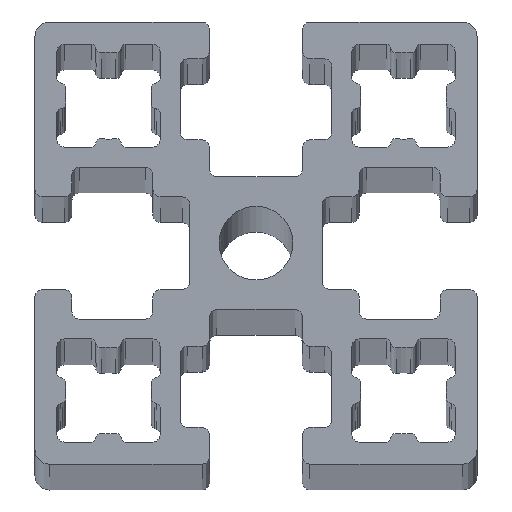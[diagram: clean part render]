
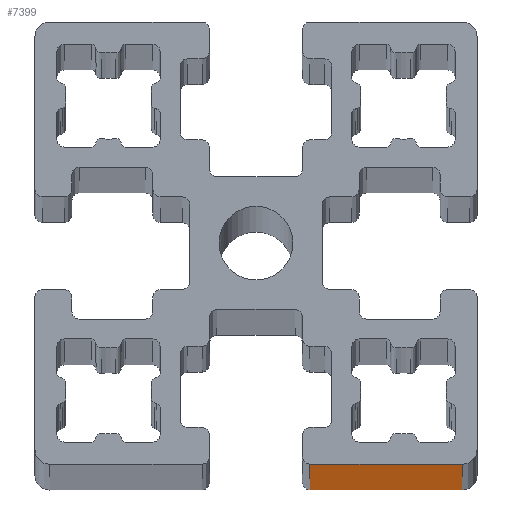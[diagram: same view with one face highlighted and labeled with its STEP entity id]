
A CAD part, top view. The second image highlights one B-rep face of the part: STEP entity #7399.
In plain terms, the highlighted planar face has unit normal (0, -1, 0).
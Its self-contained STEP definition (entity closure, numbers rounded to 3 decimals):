
#7341=CARTESIAN_POINT('',(284.,155.,1000.0));
#7342=VERTEX_POINT('',#7341);
#7350=CARTESIAN_POINT('',(284.,155.,0.0));
#7351=VERTEX_POINT('',#7350);
#7352=CARTESIAN_POINT('',(284.,155.,0.0));
#7353=DIRECTION('',(0.0,0.0,1.0));
#7354=VECTOR('',#7353,1000.0);
#7355=LINE('',#7352,#7354);
#7356=EDGE_CURVE('',#7351,#7342,#7355,.T.);
#7369=CARTESIAN_POINT('',(284.,155.,0.0));
#7370=DIRECTION('',(0.,-1.0,0.0));
#7371=DIRECTION('',(0.0,0.0,-1.0));
#7372=AXIS2_PLACEMENT_3D('',#7369,#7370,#7371);
#7373=PLANE('',#7372);
#7374=CARTESIAN_POINT('',(273.65,155.,1000.0));
#7375=VERTEX_POINT('',#7374);
#7376=CARTESIAN_POINT('',(284.,155.,1000.0));
#7377=DIRECTION('',(-1.0,0.,0.0));
#7378=VECTOR('',#7377,10.35);
#7379=LINE('',#7376,#7378);
#7380=EDGE_CURVE('',#7342,#7375,#7379,.T.);
#7381=ORIENTED_EDGE('',*,*,#7380,.T.);
#7382=CARTESIAN_POINT('',(273.65,155.,0.0));
#7383=VERTEX_POINT('',#7382);
#7384=CARTESIAN_POINT('',(273.65,155.,0.0));
#7385=DIRECTION('',(0.0,0.0,1.0));
#7386=VECTOR('',#7385,1000.0);
#7387=LINE('',#7384,#7386);
#7388=EDGE_CURVE('',#7383,#7375,#7387,.T.);
#7389=ORIENTED_EDGE('',*,*,#7388,.F.);
#7390=CARTESIAN_POINT('',(284.,155.,0.0));
#7391=DIRECTION('',(-1.0,0.,0.0));
#7392=VECTOR('',#7391,10.35);
#7393=LINE('',#7390,#7392);
#7394=EDGE_CURVE('',#7351,#7383,#7393,.T.);
#7395=ORIENTED_EDGE('',*,*,#7394,.F.);
#7396=ORIENTED_EDGE('',*,*,#7356,.T.);
#7397=EDGE_LOOP('',(#7381,#7389,#7395,#7396));
#7398=FACE_OUTER_BOUND('',#7397,.T.);
#7399=ADVANCED_FACE('',(#7398),#7373,.T.);
